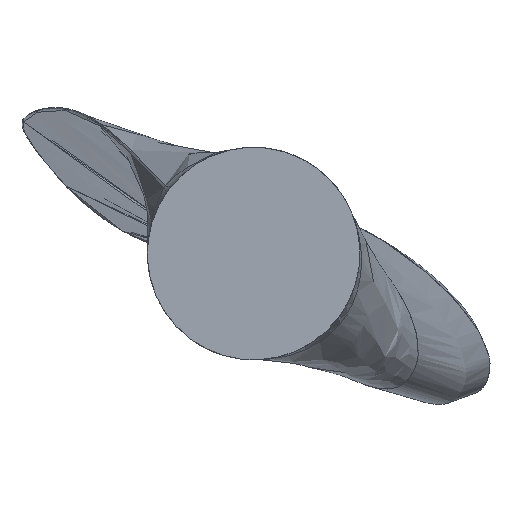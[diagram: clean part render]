
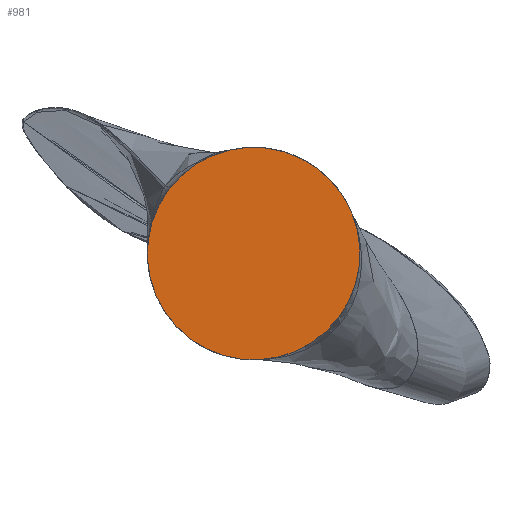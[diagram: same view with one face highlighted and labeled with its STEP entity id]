
A CAD part, front view. The second image highlights one B-rep face of the part: STEP entity #981.
In plain terms, the highlighted planar face has unit normal (0, -1, 0).
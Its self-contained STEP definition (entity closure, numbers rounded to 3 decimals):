
#145=PLANE('',#1168);
#192=FACE_OUTER_BOUND('',#264,.T.);
#264=EDGE_LOOP('',(#751));
#428=CIRCLE('',#1167,40.);
#486=VERTEX_POINT('',#3419);
#588=EDGE_CURVE('',#486,#486,#428,.T.);
#751=ORIENTED_EDGE('',*,*,#588,.T.);
#981=ADVANCED_FACE('',(#192),#145,.T.);
#1167=AXIS2_PLACEMENT_3D('',#3420,#1299,#1300);
#1168=AXIS2_PLACEMENT_3D('',#3422,#1302,#1303);
#1299=DIRECTION('center_axis',(0.,-1.,0.));
#1300=DIRECTION('ref_axis',(-0.799,0.,0.601));
#1302=DIRECTION('center_axis',(0.,-1.,0.));
#1303=DIRECTION('ref_axis',(0.,0.,-1.));
#3419=CARTESIAN_POINT('',(31.961,-150.,-24.052));
#3420=CARTESIAN_POINT('Origin',(0.,-150.,0.));
#3422=CARTESIAN_POINT('Origin',(0.,-150.,0.));
